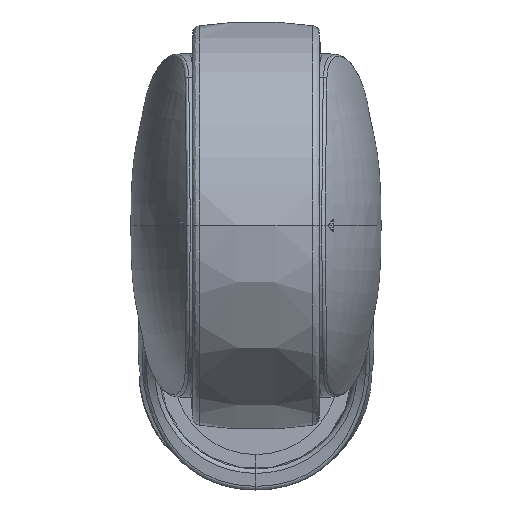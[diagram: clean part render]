
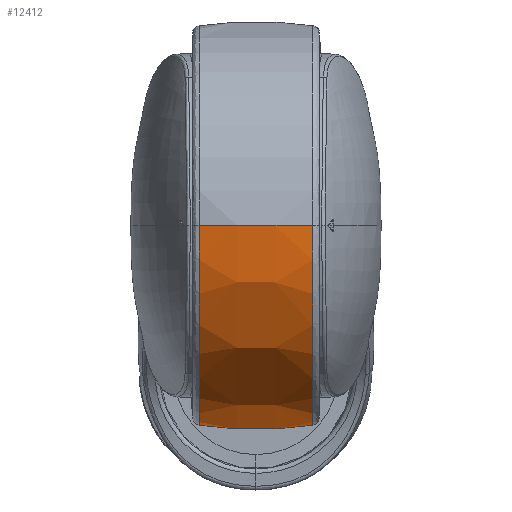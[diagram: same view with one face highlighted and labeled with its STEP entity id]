
A CAD part, front view. The second image highlights one B-rep face of the part: STEP entity #12412.
In plain terms, the highlighted free-form (B-spline) face has degree [3, 3] with [4, 7] control points.
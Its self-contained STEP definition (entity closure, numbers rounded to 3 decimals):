
#520=CIRCLE('',#13042,48.965);
#521=CIRCLE('',#13097,48.965);
#612=(
BOUNDED_CURVE()
B_SPLINE_CURVE(3,(#15857,#15858,#15859,#15860),.UNSPECIFIED.,.F.,.F.)
B_SPLINE_CURVE_WITH_KNOTS((4,4),(-1.,0.),.UNSPECIFIED.)
CURVE()
GEOMETRIC_REPRESENTATION_ITEM()
RATIONAL_B_SPLINE_CURVE((1.,0.989,0.989,1.))
REPRESENTATION_ITEM('')
);
#613=(
BOUNDED_CURVE()
B_SPLINE_CURVE(3,(#15862,#15863,#15864,#15865),.UNSPECIFIED.,.F.,.F.)
B_SPLINE_CURVE_WITH_KNOTS((4,4),(-1.,0.),.UNSPECIFIED.)
CURVE()
GEOMETRIC_REPRESENTATION_ITEM()
RATIONAL_B_SPLINE_CURVE((0.5,0.494,0.494,0.5))
REPRESENTATION_ITEM('')
);
#622=(
BOUNDED_SURFACE()
B_SPLINE_SURFACE(3,3,((#20764,#20765,#20766,#20767,#20768,#20769,#20770),
(#20771,#20772,#20773,#20774,#20775,#20776,#20777),(#20778,#20779,#20780,
#20781,#20782,#20783,#20784),(#20785,#20786,#20787,#20788,#20789,#20790,
#20791)),.UNSPECIFIED.,.F.,.T.,.F.)
B_SPLINE_SURFACE_WITH_KNOTS((4,4),(4,3,4),(0.,1.),(0.,0.5,1.),
 .UNSPECIFIED.)
GEOMETRIC_REPRESENTATION_ITEM()
RATIONAL_B_SPLINE_SURFACE(((1.,0.333,0.333,1.,0.333,
0.333,1.),(0.989,0.33,0.33,
0.989,0.33,0.33,0.989),
(0.989,0.33,0.33,0.989,
0.33,0.33,0.989),(1.,0.333,
0.333,1.,0.333,0.333,1.)))
REPRESENTATION_ITEM('')
SURFACE()
);
#859=FACE_OUTER_BOUND('',#1563,.T.);
#1563=EDGE_LOOP('',(#8578,#8579,#8580,#8581));
#4470=VERTEX_POINT('',#15803);
#4472=VERTEX_POINT('',#15810);
#4473=VERTEX_POINT('',#15856);
#4474=VERTEX_POINT('',#15861);
#5695=EDGE_CURVE('',#4470,#4473,#612,.T.);
#5696=EDGE_CURVE('',#4472,#4474,#613,.T.);
#6110=EDGE_CURVE('',#4474,#4473,#520,.T.);
#6274=EDGE_CURVE('',#4472,#4470,#521,.T.);
#8578=ORIENTED_EDGE('',*,*,#5695,.T.);
#8579=ORIENTED_EDGE('',*,*,#6110,.F.);
#8580=ORIENTED_EDGE('',*,*,#5696,.F.);
#8581=ORIENTED_EDGE('',*,*,#6274,.T.);
#12412=ADVANCED_FACE('',(#859),#622,.T.);
#13042=AXIS2_PLACEMENT_3D('',#19589,#13935,#13936);
#13097=AXIS2_PLACEMENT_3D('',#20792,#14161,#14162);
#13935=DIRECTION('center_axis',(-1.,0.,0.));
#13936=DIRECTION('ref_axis',(0.,0.,1.));
#14161=DIRECTION('center_axis',(-1.,0.,0.));
#14162=DIRECTION('ref_axis',(0.,0.,1.));
#15803=CARTESIAN_POINT('',(13.87,-137.965,36.));
#15810=CARTESIAN_POINT('',(13.87,-89.,84.965));
#15856=CARTESIAN_POINT('',(-13.87,-137.965,36.));
#15857=CARTESIAN_POINT('Ctrl Pts',(13.87,-137.965,36.));
#15858=CARTESIAN_POINT('Ctrl Pts',(4.677,-139.349,36.));
#15859=CARTESIAN_POINT('Ctrl Pts',(-4.677,-139.349,
36.));
#15860=CARTESIAN_POINT('Ctrl Pts',(-13.87,-137.965,
36.));
#15861=CARTESIAN_POINT('',(-13.87,-89.,84.965));
#15862=CARTESIAN_POINT('Ctrl Pts',(13.87,-89.,84.965));
#15863=CARTESIAN_POINT('Ctrl Pts',(4.677,-89.,86.349));
#15864=CARTESIAN_POINT('Ctrl Pts',(-4.677,-89.,
86.349));
#15865=CARTESIAN_POINT('Ctrl Pts',(-13.87,-89.,
84.965));
#19589=CARTESIAN_POINT('Origin',(-13.87,-89.,36.));
#20764=CARTESIAN_POINT('Ctrl Pts',(-13.87,-137.965,
36.));
#20765=CARTESIAN_POINT('Ctrl Pts',(-13.87,-137.965,
133.93));
#20766=CARTESIAN_POINT('Ctrl Pts',(-13.87,-40.035,133.93));
#20767=CARTESIAN_POINT('Ctrl Pts',(-13.87,-40.035,36.));
#20768=CARTESIAN_POINT('Ctrl Pts',(-13.87,-40.035,-61.93));
#20769=CARTESIAN_POINT('Ctrl Pts',(-13.87,-137.965,
-61.93));
#20770=CARTESIAN_POINT('Ctrl Pts',(-13.87,-137.965,
36.));
#20771=CARTESIAN_POINT('Ctrl Pts',(-4.677,-139.349,
36.));
#20772=CARTESIAN_POINT('Ctrl Pts',(-4.677,-139.349,
136.698));
#20773=CARTESIAN_POINT('Ctrl Pts',(-4.677,-38.651,
136.698));
#20774=CARTESIAN_POINT('Ctrl Pts',(-4.677,-38.651,
36.));
#20775=CARTESIAN_POINT('Ctrl Pts',(-4.677,-38.651,
-64.698));
#20776=CARTESIAN_POINT('Ctrl Pts',(-4.677,-139.349,
-64.698));
#20777=CARTESIAN_POINT('Ctrl Pts',(-4.677,-139.349,
36.));
#20778=CARTESIAN_POINT('Ctrl Pts',(4.677,-139.349,36.));
#20779=CARTESIAN_POINT('Ctrl Pts',(4.677,-139.349,136.698));
#20780=CARTESIAN_POINT('Ctrl Pts',(4.677,-38.651,136.698));
#20781=CARTESIAN_POINT('Ctrl Pts',(4.677,-38.651,36.));
#20782=CARTESIAN_POINT('Ctrl Pts',(4.677,-38.651,-64.698));
#20783=CARTESIAN_POINT('Ctrl Pts',(4.677,-139.349,-64.698));
#20784=CARTESIAN_POINT('Ctrl Pts',(4.677,-139.349,36.));
#20785=CARTESIAN_POINT('Ctrl Pts',(13.87,-137.965,36.));
#20786=CARTESIAN_POINT('Ctrl Pts',(13.87,-137.965,133.93));
#20787=CARTESIAN_POINT('Ctrl Pts',(13.87,-40.035,133.93));
#20788=CARTESIAN_POINT('Ctrl Pts',(13.87,-40.035,36.));
#20789=CARTESIAN_POINT('Ctrl Pts',(13.87,-40.035,-61.93));
#20790=CARTESIAN_POINT('Ctrl Pts',(13.87,-137.965,-61.93));
#20791=CARTESIAN_POINT('Ctrl Pts',(13.87,-137.965,36.));
#20792=CARTESIAN_POINT('Origin',(13.87,-89.,36.));
